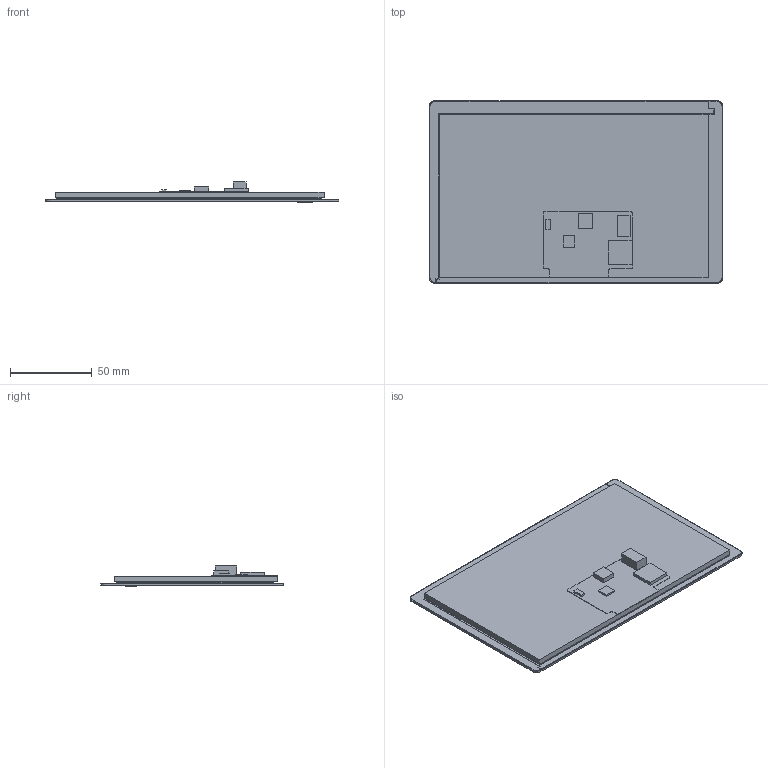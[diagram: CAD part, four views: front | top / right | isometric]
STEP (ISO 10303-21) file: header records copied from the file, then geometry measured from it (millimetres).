
FILE_DESCRIPTION(/* description */ (''),/* implementation_level */ '2;1');
FILE_NAME(/* name */ 'VTc070C01ACG2.stp',/* time_stamp */ '2026-05-29T09:44:51+08:00',/* author */ (''),/* organization */ (''),/* preprocessor_version */ 'ST-DEVELOPER v16',/* originating_system */ 'SIEMENS PLM Software NX 10.0',/* authorisation */ '');
FILE_SCHEMA (('AP203_CONFIGURATION_CONTROLLED_3D_DESIGN_OF_MECHANICAL_PARTS_AND_ASSEMBLIES_MIM_LF { 1 0 10303 403 2 1 2}'));
Length unit declared in the file: millimetre
Products named in the file (1): VTc070C01ACG2
Bounding box: 180.08 x 111.92 x 12.31 mm (x, y, z)
Volume: 78223.3 mm3; surface area: 121212.4 mm2
Topology: 8 solids, 8 shells, 99 faces, 234 edges, 156 vertices
Faces by surface type: plane 95, extrusion 4
Entity records: 3683 total; most frequent: CARTESIAN_POINT 996, ORIENTED_EDGE 466, DIRECTION 357, EDGE_CURVE 233, VECTOR 165, LINE 161, VERTEX_POINT 156, EDGE_LOOP 111
